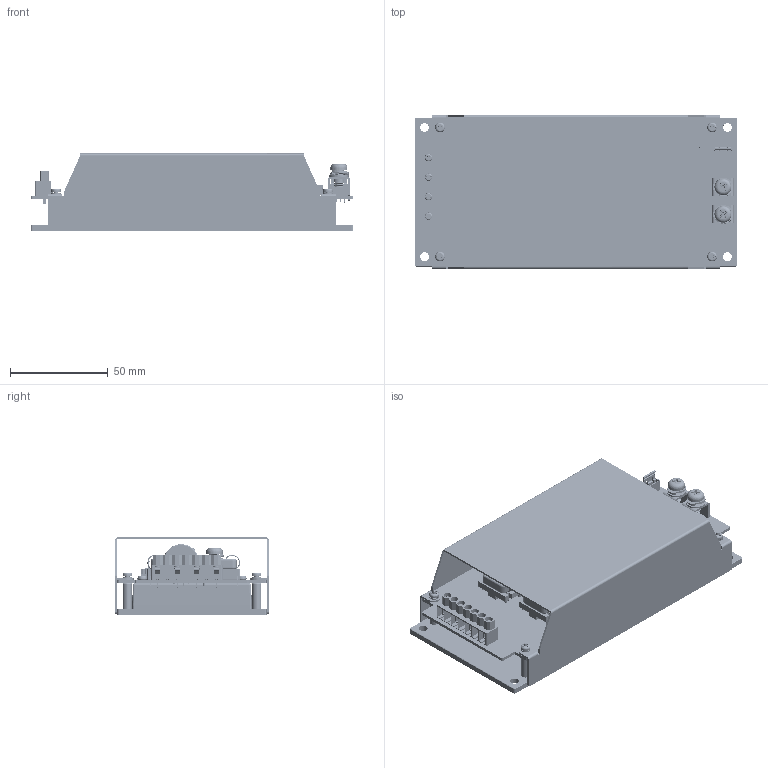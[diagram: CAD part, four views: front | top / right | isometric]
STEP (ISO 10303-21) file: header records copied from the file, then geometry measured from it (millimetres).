
FILE_DESCRIPTION (( 'STEP AP203' ), '1' );
FILE_NAME ('CHB300-300S CMFD 12V,24V,28V,48V 2024.04.17.STEP', '2024-04-26T09:12:57', ( '' ), ( '' ), 'SwSTEP 2.0', 'SolidWorks 2020', '' );
FILE_SCHEMA (( 'CONFIG_CONTROL_DESIGN' ));
Products named in the file (1): CHB300-300S CMFD 12V,24V,28V,48V 2024.04.17
Bounding box: 165 x 78.56 x 39.5 mm (x, y, z)
Volume: 137400.8 mm3; surface area: 128440.1 mm2
Topology: 9 solids, 35 shells, 2441 faces, 8796 edges, 5760 vertices
Faces by surface type: plane 1506, cylinder 582, bspline 144, cone 95, torus 75, sphere 39
Full cylindrical faces by diameter (mm): 0.7 x16, 0.78 x2, 0.8 x4, 1 x13, 1.2 x5, 1.5 x2, 2 x5, 2.2 x8, 2.9 x8, 3 x7, 3.2 x10, 3.239 x3, 3.25 x1, 3.264 x1, 3.8 x4, 3.9 x7, 4 x5, 4.2 x4, 4.3 x4, 4.45 x4, 4.5 x4, 4.6 x4, 4.7 x8, 5 x12, 5.3 x2, 5.5 x2, 10 x2, 12 x1, 12.8 x1, 13 x1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
Entity records: 191828 total; most frequent: CARTESIAN_POINT 123640, ORIENTED_EDGE 16658, DIRECTION 11181, EDGE_CURVE 8329, VERTEX_POINT 5603, LINE 4045, VECTOR 4045, AXIS2_PLACEMENT_3D 3568
